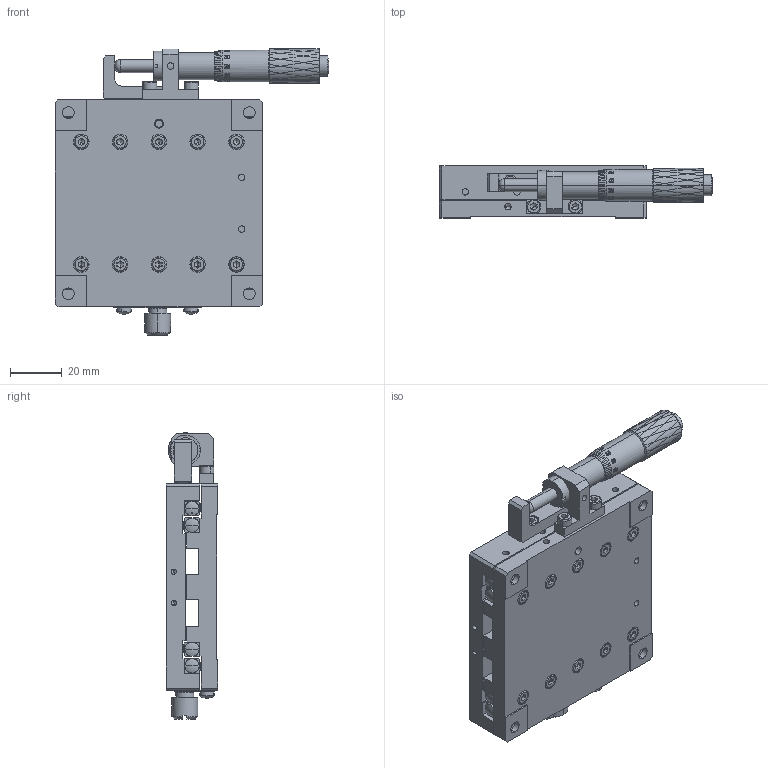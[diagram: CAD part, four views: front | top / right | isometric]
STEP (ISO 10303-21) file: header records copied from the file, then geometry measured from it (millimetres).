
FILE_DESCRIPTION (( 'STEP AP203' ), '1' );
FILE_NAME ('BPA80.STEP', '2023-12-05T00:09:03', ( 'China' ), ( 'Microsoft' ), 'SwSTEP 2.0', 'SolidWorks 2024', '' );
FILE_SCHEMA (( 'CONFIG_CONTROL_DESIGN' ));
Products named in the file (1): BPA80
Bounding box: 105.6 x 20 x 110.65 mm (x, y, z)
Volume: 118071.5 mm3; surface area: 64243.7 mm2
Topology: 41 solids, 41 shells, 2252 faces, 5654 edges, 3562 vertices
Faces by surface type: plane 711, bspline 562, cylinder 561, cone 342, torus 70, sphere 6
Entity records: 109140 total; most frequent: CARTESIAN_POINT 59982, ORIENTED_EDGE 11100, DIRECTION 8458, EDGE_CURVE 5550, VERTEX_POINT 3562, AXIS2_PLACEMENT_3D 3257, EDGE_LOOP 2600, ADVANCED_FACE 2252
